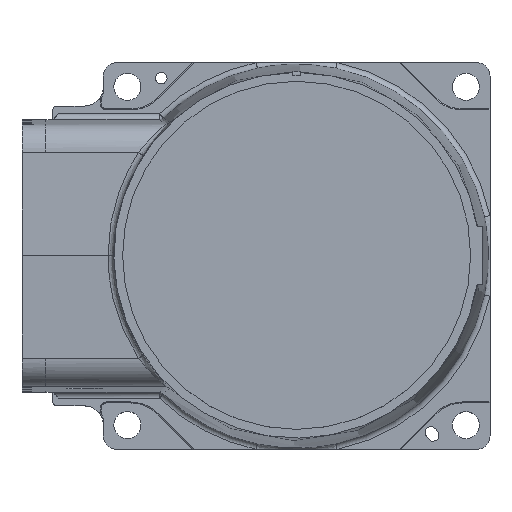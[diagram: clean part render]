
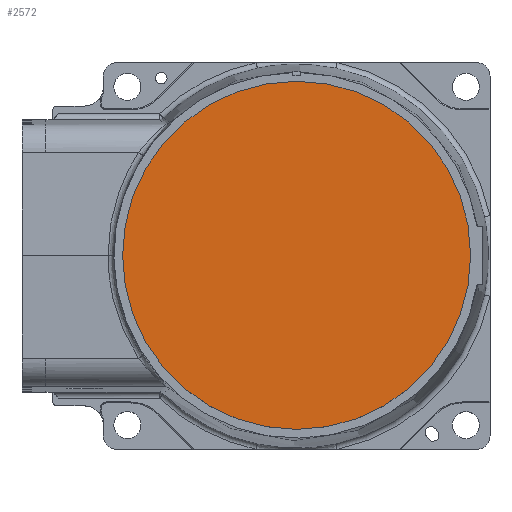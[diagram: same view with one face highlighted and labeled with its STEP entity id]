
A CAD part, top view. The second image highlights one B-rep face of the part: STEP entity #2572.
In plain terms, the highlighted planar face has unit normal (0, 0, 1).
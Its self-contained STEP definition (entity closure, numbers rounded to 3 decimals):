
#548 = CARTESIAN_POINT ( 'NONE',  ( 0., 0., 217.5 ) ) ;
#1942 = AXIS2_PLACEMENT_3D ( 'NONE', #548, #32807, #3735 ) ;
#2572 = ADVANCED_FACE ( 'NONE', ( #23068 ), #6915, .T. ) ;
#3735 = DIRECTION ( 'NONE',  ( 1., 0., 0. ) ) ;
#6915 = PLANE ( 'NONE',  #1942 ) ;
#10657 = DIRECTION ( 'NONE',  ( 0., 0., 1. ) ) ;
#11414 = EDGE_LOOP ( 'NONE', ( #26195 ) ) ;
#18152 = CIRCLE ( 'NONE', #41826, 90. ) ;
#23068 = FACE_OUTER_BOUND ( 'NONE', #11414, .T. ) ;
#23626 = CARTESIAN_POINT ( 'NONE',  ( 0., 0., 217.5 ) ) ;
#24497 = EDGE_CURVE ( 'NONE', #32555, #32555, #18152, .T. ) ;
#26195 = ORIENTED_EDGE ( 'NONE', *, *, #24497, .T. ) ;
#30402 = DIRECTION ( 'NONE',  ( 1., 0., 0. ) ) ;
#31708 = CARTESIAN_POINT ( 'NONE',  ( 90., 0., 217.5 ) ) ;
#32555 = VERTEX_POINT ( 'NONE', #31708 ) ;
#32807 = DIRECTION ( 'NONE',  ( 0., 0., 1. ) ) ;
#41826 = AXIS2_PLACEMENT_3D ( 'NONE', #23626, #10657, #30402 ) ;
